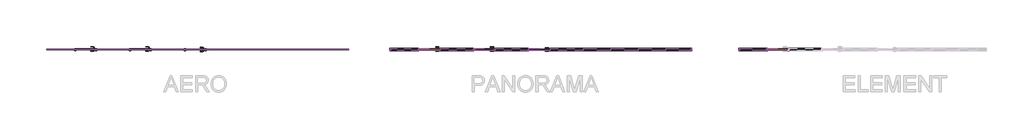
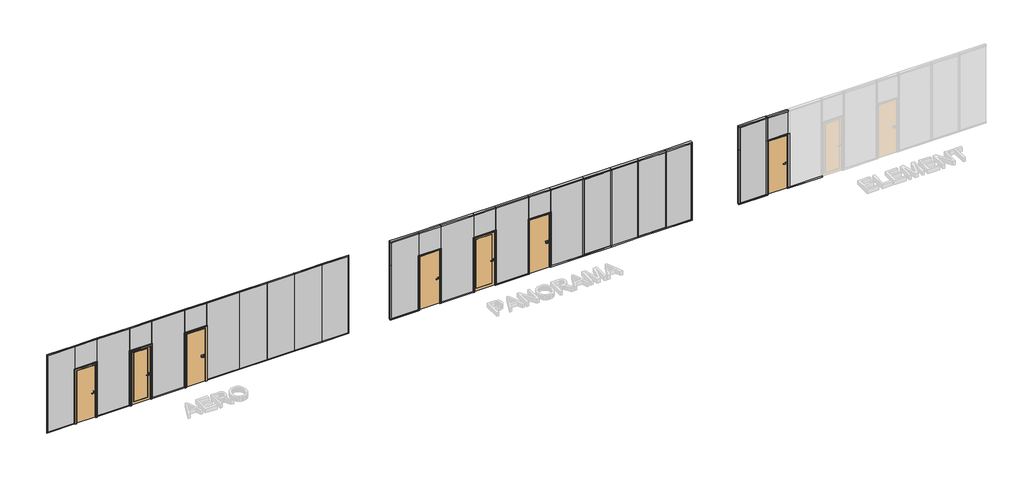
# One storey, part 1 of 2: 56 members, 24 plates, 19 doors.
"""IFC4 building model written with IfcOpenShell, lengths in millimetres."""

from ifc_helpers import new_model, si_unit, origin, place, context, project, spatial, transform, mapped, element, save
from components import door_9093d3e3, door_a52ef8e4, door_a4a6ccb6, door_728d9884, door_7f16d04f, door_5600eba2, door_8a317082, door_dc1365b6, door_572b5066, door_cc030a53, door_f3fbb11f, door_bf8c5602, door_1990c3bd, door_937f1649, door_05e06224, member_5451a1f9, member_3708038d, member_677e4dd9, member_2dd3d144, member_7cbca1cd, member_b8b3bd2f, member_cbec5030, member_06365ca1, member_5adf5f2c, member_b6bbf1a9, member_4acde7b6, member_13a5b57a, member_4891f22e, member_4cfa1914, member_e80122f3, member_e4ff52b1, member_dbd02eec, member_f7df0378, member_b819a4e9, member_84f8328c, member_916f06cf, member_73dc555b, member_ca8d964d, member_b27ab08c, member_78357b04, member_af766121, member_5ad3e071, member_f3a24926, member_3ccf52a2, member_207785f2, member_3b857dee, member_aa4ee4c7, member_44fbd9ab, member_fadf13b5, member_84486876, member_84587a3a, member_560038c9, plate_595f0704, plate_f79da63e, plate_25dafe12, plate_42d85a05, plate_0b104050, plate_0a3912a2, plate_e60d4f31, plate_bc4f32f3, plate_67983703, plate_4f8e870f, plate_bc139ad8, plate_1dc84ecd

model = new_model("IFC4")

# Units and contexts
model_context = context("Model", 3, world=origin())
ifc_project = project(units=[si_unit("LENGTHUNIT", "METRE", prefix="MILLI")], contexts=[model_context])

# Site, building, storey
site = spatial("IfcSite", under=ifc_project)
building = spatial("IfcBuilding", under=site)
storey = spatial("IfcBuildingStorey", under=building, Name="Půdorys 1.NP", Elevation=0.0)

# Doors
placement = place(None, origin())
door_shape = door_9093d3e3(model_context)
element("IfcDoor", 1, ObjectType="VERTI - kování TUPAI : ELIPTICA", at=placement, inside=storey, context=model_context, shape_type="MappedRepresentation", body=[
    mapped(door_shape, transform((-13481.2754366, 4051.6285423, 1000.0), x_axis=(1.0, 0.0, 0.0), y_axis=(0.0, 0.0, -1.0), z_axis=(0.0, 1.0, 0.0))),
])
door_2_shape = door_a52ef8e4(model_context)
element("IfcDoor", 2, ObjectType="VERTI - kování TUPAI : ELIPTICA", at=placement, inside=storey, context=model_context, shape_type="MappedRepresentation", body=[
    mapped(door_2_shape, transform((-13481.2754366, 4043.6285423, 1000.0), x_axis=(1.0, 0.0, 0.0), y_axis=(0.0, 0.0, 1.0), z_axis=(0.0, -1.0, 0.0))),
])
door_3_shape = door_a4a6ccb6(model_context)
element("IfcDoor", 3, ObjectType="VERTI - kování M&T : KVADRA", at=placement, inside=storey, context=model_context, shape_type="MappedRepresentation", body=[
    mapped(door_3_shape, transform((-936.2754366, 4051.6285423, 1000.0), x_axis=(1.0, 0.0, 0.0), y_axis=(0.0, 0.0, -1.0), z_axis=(0.0, 1.0, 0.0))),
])
door_4_shape = door_728d9884(model_context)
element("IfcDoor", 4, ObjectType="VERTI - kování M&T : KVADRA", at=placement, inside=storey, context=model_context, shape_type="MappedRepresentation", body=[
    mapped(door_4_shape, transform((-936.2754366, 4043.6285423, 1000.0), x_axis=(1.0, 0.0, 0.0), y_axis=(0.0, 0.0, 1.0), z_axis=(0.0, -1.0, 0.0))),
])
door_5_shape = door_7f16d04f(model_context)
element("IfcDoor", 5, ObjectType="VERTI - kování M&T : KVADRA", at=placement, inside=storey, context=model_context, shape_type="MappedRepresentation", body=[
    mapped(door_5_shape, transform((-4936.2754366, 4083.6285423, 1000.0), x_axis=(1.0, 0.0, 0.0), y_axis=(0.0, 0.0, -1.0), z_axis=(0.0, 1.0, 0.0))),
])
element("IfcDoor", 6, ObjectType="VERTI - kování M&T : KVADRA", at=placement, inside=storey, context=model_context, shape_type="MappedRepresentation", body=[
    mapped(door_5_shape, transform((-2936.2754366, 4083.6285423, 1000.0), x_axis=(1.0, 0.0, 0.0), y_axis=(0.0, 0.0, -1.0), z_axis=(0.0, 1.0, 0.0))),
])
door_6_shape = door_5600eba2(model_context)
element("IfcDoor", 7, ObjectType="VERTI - kování TUPAI : ELIPTICA", at=placement, inside=storey, context=model_context, shape_type="MappedRepresentation", body=[
    mapped(door_6_shape, transform((-17481.2754366, 4051.6285423, 1000.0), x_axis=(1.0, 0.0, 0.0), y_axis=(0.0, 0.0, 1.0), z_axis=(0.0, -1.0, 0.0))),
])
element("IfcDoor", 8, ObjectType="VERTI - kování TUPAI : ELIPTICA", at=placement, inside=storey, context=model_context, shape_type="MappedRepresentation", body=[
    mapped(door_6_shape, transform((-15481.2754366, 4051.6285423, 1000.0), x_axis=(1.0, 0.0, 0.0), y_axis=(0.0, 0.0, 1.0), z_axis=(0.0, -1.0, 0.0))),
])
door_7_shape = door_8a317082(model_context)
element("IfcDoor", 9, ObjectType="VERTI - kování TUPAI : ELIPTICA", at=placement, inside=storey, context=model_context, shape_type="MappedRepresentation", body=[
    mapped(door_7_shape, transform((-17481.2754366, 4083.6285423, 1000.0), x_axis=(1.0, 0.0, 0.0), y_axis=(0.0, 0.0, -1.0), z_axis=(0.0, 1.0, 0.0))),
])
element("IfcDoor", 10, ObjectType="VERTI - kování TUPAI : ELIPTICA", at=placement, inside=storey, context=model_context, shape_type="MappedRepresentation", body=[
    mapped(door_7_shape, transform((-15481.2754366, 4083.6285423, 1000.0), x_axis=(1.0, 0.0, 0.0), y_axis=(0.0, 0.0, -1.0), z_axis=(0.0, 1.0, 0.0))),
])
door_8_shape = door_dc1365b6(model_context)
element("IfcDoor", 11, ObjectType="VERTI - kování M&T : KVADRA", at=placement, inside=storey, context=model_context, shape_type="MappedRepresentation", body=[
    mapped(door_8_shape, transform((-4936.2754366, 4051.6285423, 1000.0), x_axis=(1.0, 0.0, 0.0), y_axis=(0.0, 0.0, 1.0), z_axis=(0.0, -1.0, 0.0))),
])
element("IfcDoor", 12, ObjectType="VERTI - kování M&T : KVADRA", at=placement, inside=storey, context=model_context, shape_type="MappedRepresentation", body=[
    mapped(door_8_shape, transform((-2936.2754366, 4051.6285423, 1000.0), x_axis=(1.0, 0.0, 0.0), y_axis=(0.0, 0.0, 1.0), z_axis=(0.0, -1.0, 0.0))),
])
door_9_shape = door_572b5066(model_context)
element("IfcDoor", 13, ObjectType="VERTI AERO - dveřní panel : AERO - dveřní panel", at=placement, inside=storey, context=model_context, shape_type="MappedRepresentation", body=[
    mapped(door_9_shape, transform((-13790.2754366, 4046.1285423, 0.0), x_axis=(1.0, 0.0, 0.0), y_axis=(0.0, 1.0, 0.0), z_axis=(0.0, 0.0, 1.0))),
])
door_10_shape = door_cc030a53(model_context)
element("IfcDoor", 14, ObjectType="VERTI AERO - dveřní panel : AERO - dveřní panel", at=placement, inside=storey, context=model_context, shape_type="MappedRepresentation", body=[
    mapped(door_10_shape, transform((-15790.2754366, 4046.1285423, 0.0), x_axis=(1.0, 0.0, 0.0), y_axis=(0.0, 1.0, 0.0), z_axis=(0.0, 0.0, 1.0))),
])
door_11_shape = door_f3fbb11f(model_context)
element("IfcDoor", 15, ObjectType="VERTI AERO - dveřní panel : AERO - dveřní panel", at=placement, inside=storey, context=model_context, shape_type="MappedRepresentation", body=[
    mapped(door_11_shape, transform((-17790.2754366, 4046.1285423, 0.0), x_axis=(1.0, 0.0, 0.0), y_axis=(0.0, 1.0, 0.0), z_axis=(0.0, 0.0, 1.0))),
])
door_12_shape = door_bf8c5602(model_context)
element("IfcDoor", 16, ObjectType="VERTI ELEMENT - dveřní panel : ELEMENT - dveřní panel", at=placement, inside=storey, context=model_context, shape_type="MappedRepresentation", body=[
    mapped(door_12_shape, transform((7412.2245634, 4046.1285423, 0.0), x_axis=(1.0, 0.0, 0.0), y_axis=(0.0, 1.0, 0.0), z_axis=(0.0, 0.0, 1.0))),
])
door_13_shape = door_1990c3bd(model_context)
element("IfcDoor", 17, ObjectType="VERTI PANORAMA - dveřní panel : PANORAMA - dveřní panel", at=placement, inside=storey, context=model_context, shape_type="MappedRepresentation", body=[
    mapped(door_13_shape, transform((-5270.2754366, 4046.1285423, 0.0), x_axis=(1.0, 0.0, 0.0), y_axis=(0.0, 1.0, 0.0), z_axis=(0.0, 0.0, 1.0))),
])
door_14_shape = door_937f1649(model_context)
element("IfcDoor", 18, ObjectType="VERTI PANORAMA - dveřní panel : PANORAMA - dveřní panel", at=placement, inside=storey, context=model_context, shape_type="MappedRepresentation", body=[
    mapped(door_14_shape, transform((-1270.2754366, 4046.1285423, 0.0), x_axis=(1.0, 0.0, 0.0), y_axis=(0.0, 1.0, 0.0), z_axis=(0.0, 0.0, 1.0))),
])
door_15_shape = door_05e06224(model_context)
element("IfcDoor", 19, ObjectType="VERTI PANORAMA - dveřní panel : PANORAMA - dveřní panel", at=placement, inside=storey, context=model_context, shape_type="MappedRepresentation", body=[
    mapped(door_15_shape, transform((-3270.2754366, 4046.1285423, 0.0), x_axis=(1.0, 0.0, 0.0), y_axis=(0.0, 1.0, 0.0), z_axis=(0.0, 0.0, 1.0))),
])

# Members
member_shape = member_5451a1f9(model_context)
element("IfcMember", 20, ObjectType="Obdélníková příčel : VERTI PANORAMA - vertikální", at=placement, inside=storey, context=model_context, shape_type="MappedRepresentation", body=[
    mapped(member_shape, transform((4289.7245634, 4046.1285423, 3000.0), x_axis=(0.0, 0.0, 1.0), y_axis=(0.0, -1.0, 0.0), z_axis=(1.0, 0.0, 0.0))),
])
member_2_shape = member_3708038d(model_context)
element("IfcMember", 21, ObjectType="Obdélníková příčel : VERTI PANORAMA - vertikální", at=placement, inside=storey, context=model_context, shape_type="MappedRepresentation", body=[
    mapped(member_2_shape, transform((-5670.2754366, 4046.1285423, 3000.0), x_axis=(0.0, 0.0, 1.0), y_axis=(0.0, -1.0, 0.0), z_axis=(1.0, 0.0, 0.0))),
])
member_3_shape = member_677e4dd9(model_context)
element("IfcMember", 22, ObjectType="Obdélníková příčel : VERTI PANORAMA - vertikální", at=placement, inside=storey, context=model_context, shape_type="MappedRepresentation", body=[
    mapped(member_3_shape, transform((1329.7245634, 4046.1285423, 3000.0), x_axis=(0.0, 0.0, 1.0), y_axis=(0.0, -1.0, 0.0), z_axis=(1.0, 0.0, 0.0))),
])
element("IfcMember", 23, ObjectType="Obdélníková příčel : VERTI PANORAMA - vertikální", at=placement, inside=storey, context=model_context, shape_type="MappedRepresentation", body=[
    mapped(member_3_shape, transform((2329.7245634, 4046.1285423, 3000.0), x_axis=(0.0, 0.0, 1.0), y_axis=(0.0, -1.0, 0.0), z_axis=(1.0, 0.0, 0.0))),
])
element("IfcMember", 24, ObjectType="Obdélníková příčel : VERTI PANORAMA - vertikální", at=placement, inside=storey, context=model_context, shape_type="MappedRepresentation", body=[
    mapped(member_3_shape, transform((3329.7245634, 4046.1285423, 3000.0), x_axis=(0.0, 0.0, 1.0), y_axis=(0.0, -1.0, 0.0), z_axis=(1.0, 0.0, 0.0))),
])
member_4_shape = member_2dd3d144(model_context)
element("IfcMember", 25, ObjectType="Obdélníková příčel : VERTI PANORAMA - vertikální", at=placement, inside=storey, context=model_context, shape_type="MappedRepresentation", body=[
    mapped(member_4_shape, transform((329.7245634, 4046.1285423, 0.0), x_axis=(0.0, 0.0, -1.0), y_axis=(0.0, -1.0, 0.0), z_axis=(-1.0, 0.0, 0.0))),
])
element("IfcMember", 26, ObjectType="Obdélníková příčel : VERTI PANORAMA - vertikální", at=placement, inside=storey, context=model_context, shape_type="MappedRepresentation", body=[
    mapped(member_4_shape, transform((1329.7245634, 4046.1285423, 0.0), x_axis=(0.0, 0.0, -1.0), y_axis=(0.0, -1.0, 0.0), z_axis=(-1.0, 0.0, 0.0))),
])
element("IfcMember", 27, ObjectType="Obdélníková příčel : VERTI PANORAMA - vertikální", at=placement, inside=storey, context=model_context, shape_type="MappedRepresentation", body=[
    mapped(member_4_shape, transform((2329.7245634, 4046.1285423, 0.0), x_axis=(0.0, 0.0, -1.0), y_axis=(0.0, -1.0, 0.0), z_axis=(-1.0, 0.0, 0.0))),
])
member_5_shape = member_7cbca1cd(model_context)
element("IfcMember", 28, ObjectType="Obdélníková příčel : VERTI PANORAMA - vertikální", at=placement, inside=storey, context=model_context, shape_type="MappedRepresentation", body=[
    mapped(member_5_shape, transform((3329.7245634, 4046.1285423, 0.0), x_axis=(0.0, 0.0, -1.0), y_axis=(0.0, -1.0, 0.0), z_axis=(-1.0, 0.0, 0.0))),
])
member_6_shape = member_b8b3bd2f(model_context)
element("IfcMember", 29, ObjectType="Obdélníková příčel : VERTI PANORAMA - vertikální", at=placement, inside=storey, context=model_context, shape_type="MappedRepresentation", body=[
    mapped(member_6_shape, transform((-6710.2754366, 4046.1285423, 0.0), x_axis=(0.0, 0.0, -1.0), y_axis=(0.0, -1.0, 0.0), z_axis=(-1.0, 0.0, 0.0))),
])
member_7_shape = member_cbec5030(model_context)
element("IfcMember", 30, ObjectType="Obdélníková příčel : VERTI ELEMENT - vertikální", at=placement, inside=storey, context=model_context, shape_type="MappedRepresentation", body=[
    mapped(member_7_shape, transform((5989.7245634, 4046.1285423, 0.0), x_axis=(0.0, 0.0, -1.0), y_axis=(0.0, -1.0, 0.0), z_axis=(-1.0, 0.0, 0.0))),
])
member_8_shape = member_06365ca1(model_context)
element("IfcMember", 31, ObjectType="Obdélníková příčel : VERTI ELEMENT - vertikální", at=placement, inside=storey, context=model_context, shape_type="MappedRepresentation", body=[
    mapped(member_8_shape, transform((7789.7245634, 4046.1285423, 0.0), x_axis=(0.0, 0.0, -1.0), y_axis=(0.0, -1.0, 0.0), z_axis=(-1.0, 0.0, 0.0))),
])
member_9_shape = member_5adf5f2c(model_context)
element("IfcMember", 32, ObjectType="Obdélníková příčel : VERTI ELEMENT - vertikální", at=placement, inside=storey, context=model_context, shape_type="MappedRepresentation", body=[
    mapped(member_9_shape, transform((7012.2245634, 4046.1285423, 45.0), x_axis=(1.0, 0.0, 0.0), y_axis=(0.0, -1.0, 0.0), z_axis=(0.0, 0.0, -1.0))),
])
element("IfcMember", 33, ObjectType="Obdélníková příčel : VERTI ELEMENT - vertikální", at=placement, inside=storey, context=model_context, shape_type="MappedRepresentation", body=[
    mapped(member_9_shape, transform((7812.2245634, 4046.1285423, 45.0), x_axis=(1.0, 0.0, 0.0), y_axis=(0.0, -1.0, 0.0), z_axis=(0.0, 0.0, -1.0))),
])
member_10_shape = member_b6bbf1a9(model_context)
element("IfcMember", 34, ObjectType="Obdélníková příčel : VERTI ELEMENT - horizontální", at=placement, inside=storey, context=model_context, shape_type="MappedRepresentation", body=[
    mapped(member_10_shape, transform((7789.7245634, 4046.1285423, 2100.0), x_axis=(0.0, 0.0, 1.0), y_axis=(0.0, -1.0, 0.0), z_axis=(1.0, 0.0, 0.0))),
])
member_11_shape = member_4acde7b6(model_context)
element("IfcMember", 35, ObjectType="Obdélníková příčel : VERTI ELEMENT - vertikální", at=placement, inside=storey, context=model_context, shape_type="MappedRepresentation", body=[
    mapped(member_11_shape, transform((5989.7245634, 4046.1285423, 2955.0), x_axis=(-1.0, 0.0, 0.0), y_axis=(0.0, -1.0, 0.0), z_axis=(0.0, 0.0, 1.0))),
])
member_12_shape = member_13a5b57a(model_context)
element("IfcMember", 36, ObjectType="Obdélníková příčel : VERTI ELEMENT - vertikální", at=placement, inside=storey, context=model_context, shape_type="MappedRepresentation", body=[
    mapped(member_12_shape, transform((5989.7245634, 4046.1285423, 2100.0), x_axis=(-1.0, 0.0, 0.0), y_axis=(0.0, -1.0, 0.0), z_axis=(0.0, 0.0, 1.0))),
])
member_13_shape = member_4891f22e(model_context)
element("IfcMember", 37, ObjectType="Obdélníková příčel : VERTI ELEMENT - vertikální", at=placement, inside=storey, context=model_context, shape_type="MappedRepresentation", body=[
    mapped(member_13_shape, transform((6989.7245634, 4046.1285423, 3000.0), x_axis=(0.0, 0.0, 1.0), y_axis=(0.0, -1.0, 0.0), z_axis=(1.0, 0.0, 0.0))),
])
member_14_shape = member_4cfa1914(model_context)
element("IfcMember", 38, ObjectType="Obdélníková příčel : VERTI ELEMENT - vertikální", at=placement, inside=storey, context=model_context, shape_type="MappedRepresentation", body=[
    mapped(member_14_shape, transform((7789.7245634, 4046.1285423, 3000.0), x_axis=(0.0, 0.0, 1.0), y_axis=(0.0, -1.0, 0.0), z_axis=(1.0, 0.0, 0.0))),
])
member_15_shape = member_e80122f3(model_context)
element("IfcMember", 39, ObjectType="Obdélníková příčel : VERTI ELEMENT - vertikální", at=placement, inside=storey, context=model_context, shape_type="MappedRepresentation", body=[
    mapped(member_15_shape, transform((7012.2245634, 4046.1285423, 2100.0), x_axis=(1.0, 0.0, 0.0), y_axis=(0.0, -1.0, 0.0), z_axis=(0.0, 0.0, -1.0))),
])
member_16_shape = member_e4ff52b1(model_context)
element("IfcMember", 40, ObjectType="Obdélníková příčel : VERTI PANORAMA - vertikální", at=placement, inside=storey, context=model_context, shape_type="MappedRepresentation", body=[
    mapped(member_16_shape, transform((4289.7245634, 4046.1285423, 40.0), x_axis=(1.0, 0.0, 0.0), y_axis=(0.0, -1.0, 0.0), z_axis=(0.0, 0.0, -1.0))),
])
member_17_shape = member_dbd02eec(model_context)
element("IfcMember", 41, ObjectType="Obdélníková příčel : VERTI PANORAMA - vertikální", at=placement, inside=storey, context=model_context, shape_type="MappedRepresentation", body=[
    mapped(member_17_shape, transform((-6710.2754366, 4046.1285423, 2960.0), x_axis=(-1.0, 0.0, 0.0), y_axis=(0.0, -1.0, 0.0), z_axis=(0.0, 0.0, 1.0))),
])
member_18_shape = member_f7df0378(model_context)
element("IfcMember", 42, ObjectType="Obdélníková příčel : VERTI PANORAMA - vertikální", at=placement, inside=storey, context=model_context, shape_type="MappedRepresentation", body=[
    mapped(member_18_shape, transform((4289.7245634, 4046.1285423, 2100.0), x_axis=(1.0, 0.0, 0.0), y_axis=(0.0, -1.0, 0.0), z_axis=(0.0, 0.0, -1.0))),
])
member_19_shape = member_b819a4e9(model_context)
element("IfcMember", 43, ObjectType="Obdélníková příčel : VERTI PANORAMA - vertikální", at=placement, inside=storey, context=model_context, shape_type="MappedRepresentation", body=[
    mapped(member_19_shape, transform((-6710.2754366, 4046.1285423, 2100.0), x_axis=(-1.0, 0.0, 0.0), y_axis=(0.0, -1.0, 0.0), z_axis=(0.0, 0.0, 1.0))),
])
member_20_shape = member_84f8328c(model_context)
element("IfcMember", 44, ObjectType="Obdélníková příčel : VERTI PANORAMA - vertikální", at=placement, inside=storey, context=model_context, shape_type="MappedRepresentation", body=[
    mapped(member_20_shape, transform((-4870.2754366, 4046.1285423, 3000.0), x_axis=(0.0, 0.0, 1.0), y_axis=(0.0, -1.0, 0.0), z_axis=(1.0, 0.0, 0.0))),
])
element("IfcMember", 45, ObjectType="Obdélníková příčel : VERTI PANORAMA - vertikální", at=placement, inside=storey, context=model_context, shape_type="MappedRepresentation", body=[
    mapped(member_20_shape, transform((-2870.2754366, 4046.1285423, 3000.0), x_axis=(0.0, 0.0, 1.0), y_axis=(0.0, -1.0, 0.0), z_axis=(1.0, 0.0, 0.0))),
])
element("IfcMember", 46, ObjectType="Obdélníková příčel : VERTI PANORAMA - vertikální", at=placement, inside=storey, context=model_context, shape_type="MappedRepresentation", body=[
    mapped(member_20_shape, transform((-870.2754366, 4046.1285423, 3000.0), x_axis=(0.0, 0.0, 1.0), y_axis=(0.0, -1.0, 0.0), z_axis=(1.0, 0.0, 0.0))),
])
member_21_shape = member_916f06cf(model_context)
element("IfcMember", 47, ObjectType="Obdélníková příčel : VERTI PANORAMA - vertikální", at=placement, inside=storey, context=model_context, shape_type="MappedRepresentation", body=[
    mapped(member_21_shape, transform((-3670.2754366, 4046.1285423, 3000.0), x_axis=(0.0, 0.0, 1.0), y_axis=(0.0, -1.0, 0.0), z_axis=(1.0, 0.0, 0.0))),
])
element("IfcMember", 48, ObjectType="Obdélníková příčel : VERTI PANORAMA - vertikální", at=placement, inside=storey, context=model_context, shape_type="MappedRepresentation", body=[
    mapped(member_21_shape, transform((-1670.2754366, 4046.1285423, 3000.0), x_axis=(0.0, 0.0, 1.0), y_axis=(0.0, -1.0, 0.0), z_axis=(1.0, 0.0, 0.0))),
])
element("IfcMember", 49, ObjectType="Obdélníková příčel : VERTI PANORAMA - vertikální", at=placement, inside=storey, context=model_context, shape_type="MappedRepresentation", body=[
    mapped(member_21_shape, transform((329.7245634, 4046.1285423, 3000.0), x_axis=(0.0, 0.0, 1.0), y_axis=(0.0, -1.0, 0.0), z_axis=(1.0, 0.0, 0.0))),
])
member_22_shape = member_73dc555b(model_context)
element("IfcMember", 50, ObjectType="Obdélníková příčel : VERTI PANORAMA - vertikální", at=placement, inside=storey, context=model_context, shape_type="MappedRepresentation", body=[
    mapped(member_22_shape, transform((-870.2754366, 4046.1285423, 0.0), x_axis=(0.0, 0.0, -1.0), y_axis=(0.0, -1.0, 0.0), z_axis=(-1.0, 0.0, 0.0))),
])
element("IfcMember", 51, ObjectType="Obdélníková příčel : VERTI PANORAMA - vertikální", at=placement, inside=storey, context=model_context, shape_type="MappedRepresentation", body=[
    mapped(member_22_shape, transform((-4870.2754366, 4046.1285423, 0.0), x_axis=(0.0, 0.0, -1.0), y_axis=(0.0, -1.0, 0.0), z_axis=(-1.0, 0.0, 0.0))),
])
element("IfcMember", 52, ObjectType="Obdélníková příčel : VERTI PANORAMA - vertikální", at=placement, inside=storey, context=model_context, shape_type="MappedRepresentation", body=[
    mapped(member_22_shape, transform((-2870.2754366, 4046.1285423, 0.0), x_axis=(0.0, 0.0, -1.0), y_axis=(0.0, -1.0, 0.0), z_axis=(-1.0, 0.0, 0.0))),
])
member_23_shape = member_ca8d964d(model_context)
element("IfcMember", 53, ObjectType="Obdélníková příčel : VERTI AERO", at=placement, inside=storey, context=model_context, shape_type="MappedRepresentation", body=[
    mapped(member_23_shape, transform((-16190.2754366, 4046.1285423, 3000.0), x_axis=(0.0, 0.0, 1.0), y_axis=(0.0, -1.0, 0.0), z_axis=(1.0, 0.0, 0.0))),
])
element("IfcMember", 54, ObjectType="Obdélníková příčel : VERTI AERO", at=placement, inside=storey, context=model_context, shape_type="MappedRepresentation", body=[
    mapped(member_23_shape, transform((-14190.2754366, 4046.1285423, 3000.0), x_axis=(0.0, 0.0, 1.0), y_axis=(0.0, -1.0, 0.0), z_axis=(1.0, 0.0, 0.0))),
])
element("IfcMember", 55, ObjectType="Obdélníková příčel : VERTI AERO", at=placement, inside=storey, context=model_context, shape_type="MappedRepresentation", body=[
    mapped(member_23_shape, transform((-12190.2754366, 4046.1285423, 3000.0), x_axis=(0.0, 0.0, 1.0), y_axis=(0.0, -1.0, 0.0), z_axis=(1.0, 0.0, 0.0))),
])
member_24_shape = member_b27ab08c(model_context)
element("IfcMember", 56, ObjectType="Obdélníková příčel : VERTI AERO", at=placement, inside=storey, context=model_context, shape_type="MappedRepresentation", body=[
    mapped(member_24_shape, transform((-19210.2754366, 4046.1285423, 2975.0), x_axis=(-1.0, 0.0, 0.0), y_axis=(0.0, -1.0, 0.0), z_axis=(0.0, 0.0, 1.0))),
])
member_25_shape = member_78357b04(model_context)
element("IfcMember", 57, ObjectType="Obdélníková příčel : VERTI AERO", at=placement, inside=storey, context=model_context, shape_type="MappedRepresentation", body=[
    mapped(member_25_shape, transform((-8210.2754366, 4046.1285423, 2100.0), x_axis=(1.0, 0.0, 0.0), y_axis=(0.0, -1.0, 0.0), z_axis=(0.0, 0.0, -1.0))),
])
member_26_shape = member_af766121(model_context)
element("IfcMember", 58, ObjectType="Obdélníková příčel : VERTI AERO", at=placement, inside=storey, context=model_context, shape_type="MappedRepresentation", body=[
    mapped(member_26_shape, transform((-8210.2754366, 4046.1285423, 3000.0), x_axis=(0.0, 0.0, 1.0), y_axis=(0.0, -1.0, 0.0), z_axis=(1.0, 0.0, 0.0))),
])
member_27_shape = member_5ad3e071(model_context)
element("IfcMember", 59, ObjectType="Obdélníková příčel : VERTI AERO", at=placement, inside=storey, context=model_context, shape_type="MappedRepresentation", body=[
    mapped(member_27_shape, transform((-11185.2754366, 4046.1285423, 3000.0), x_axis=(0.0, 0.0, 1.0), y_axis=(0.0, -1.0, 0.0), z_axis=(1.0, 0.0, 0.0))),
])
element("IfcMember", 60, ObjectType="Obdélníková příčel : VERTI AERO", at=placement, inside=storey, context=model_context, shape_type="MappedRepresentation", body=[
    mapped(member_27_shape, transform((-9185.2754366, 4046.1285423, 3000.0), x_axis=(0.0, 0.0, 1.0), y_axis=(0.0, -1.0, 0.0), z_axis=(1.0, 0.0, 0.0))),
])
member_28_shape = member_f3a24926(model_context)
element("IfcMember", 61, ObjectType="Obdélníková příčel : VERTI AERO", at=placement, inside=storey, context=model_context, shape_type="MappedRepresentation", body=[
    mapped(member_28_shape, transform((-10190.2754366, 4046.1285423, 3000.0), x_axis=(0.0, 0.0, 1.0), y_axis=(0.0, -1.0, 0.0), z_axis=(1.0, 0.0, 0.0))),
])
member_29_shape = member_3ccf52a2(model_context)
element("IfcMember", 62, ObjectType="Obdélníková příčel : VERTI AERO", at=placement, inside=storey, context=model_context, shape_type="MappedRepresentation", body=[
    mapped(member_29_shape, transform((-12190.2754366, 4046.1285423, 0.0), x_axis=(0.0, 0.0, -1.0), y_axis=(0.0, -1.0, 0.0), z_axis=(-1.0, 0.0, 0.0))),
])
element("IfcMember", 63, ObjectType="Obdélníková příčel : VERTI AERO", at=placement, inside=storey, context=model_context, shape_type="MappedRepresentation", body=[
    mapped(member_29_shape, transform((-10190.2754366, 4046.1285423, 0.0), x_axis=(0.0, 0.0, -1.0), y_axis=(0.0, -1.0, 0.0), z_axis=(-1.0, 0.0, 0.0))),
])
member_30_shape = member_207785f2(model_context)
element("IfcMember", 64, ObjectType="Obdélníková příčel : VERTI AERO", at=placement, inside=storey, context=model_context, shape_type="MappedRepresentation", body=[
    mapped(member_30_shape, transform((-11185.2754366, 4046.1285423, 0.0), x_axis=(0.0, 0.0, -1.0), y_axis=(0.0, -1.0, 0.0), z_axis=(-1.0, 0.0, 0.0))),
])
member_31_shape = member_3b857dee(model_context)
element("IfcMember", 65, ObjectType="Obdélníková příčel : VERTI AERO", at=placement, inside=storey, context=model_context, shape_type="MappedRepresentation", body=[
    mapped(member_31_shape, transform((-9185.2754366, 4046.1285423, 0.0), x_axis=(0.0, 0.0, -1.0), y_axis=(0.0, -1.0, 0.0), z_axis=(-1.0, 0.0, 0.0))),
])
member_32_shape = member_aa4ee4c7(model_context)
element("IfcMember", 66, ObjectType="Obdélníková příčel : VERTI AERO", at=placement, inside=storey, context=model_context, shape_type="MappedRepresentation", body=[
    mapped(member_32_shape, transform((-8210.2754366, 4046.1285423, 25.0), x_axis=(1.0, 0.0, 0.0), y_axis=(0.0, -1.0, 0.0), z_axis=(0.0, 0.0, -1.0))),
])
member_33_shape = member_44fbd9ab(model_context)
element("IfcMember", 67, ObjectType="Obdélníková příčel : VERTI AERO", at=placement, inside=storey, context=model_context, shape_type="MappedRepresentation", body=[
    mapped(member_33_shape, transform((-19210.2754366, 4046.1285423, 2100.0), x_axis=(-1.0, 0.0, 0.0), y_axis=(0.0, -1.0, 0.0), z_axis=(0.0, 0.0, 1.0))),
])
member_34_shape = member_fadf13b5(model_context)
element("IfcMember", 68, ObjectType="Obdélníková příčel : VERTI AERO", at=placement, inside=storey, context=model_context, shape_type="MappedRepresentation", body=[
    mapped(member_34_shape, transform((-17390.2754366, 4046.1285423, 0.0), x_axis=(0.0, 0.0, -1.0), y_axis=(0.0, -1.0, 0.0), z_axis=(-1.0, 0.0, 0.0))),
])
element("IfcMember", 69, ObjectType="Obdélníková příčel : VERTI AERO", at=placement, inside=storey, context=model_context, shape_type="MappedRepresentation", body=[
    mapped(member_34_shape, transform((-15390.2754366, 4046.1285423, 0.0), x_axis=(0.0, 0.0, -1.0), y_axis=(0.0, -1.0, 0.0), z_axis=(-1.0, 0.0, 0.0))),
])
member_35_shape = member_84486876(model_context)
element("IfcMember", 70, ObjectType="Obdélníková příčel : VERTI AERO", at=placement, inside=storey, context=model_context, shape_type="MappedRepresentation", body=[
    mapped(member_35_shape, transform((-17390.2754366, 4046.1285423, 3000.0), x_axis=(0.0, 0.0, 1.0), y_axis=(0.0, -1.0, 0.0), z_axis=(1.0, 0.0, 0.0))),
])
element("IfcMember", 71, ObjectType="Obdélníková příčel : VERTI AERO", at=placement, inside=storey, context=model_context, shape_type="MappedRepresentation", body=[
    mapped(member_35_shape, transform((-15390.2754366, 4046.1285423, 3000.0), x_axis=(0.0, 0.0, 1.0), y_axis=(0.0, -1.0, 0.0), z_axis=(1.0, 0.0, 0.0))),
])
element("IfcMember", 72, ObjectType="Obdélníková příčel : VERTI AERO", at=placement, inside=storey, context=model_context, shape_type="MappedRepresentation", body=[
    mapped(member_35_shape, transform((-13390.2754366, 4046.1285423, 3000.0), x_axis=(0.0, 0.0, 1.0), y_axis=(0.0, -1.0, 0.0), z_axis=(1.0, 0.0, 0.0))),
])
element("IfcMember", 73, ObjectType="Obdélníková příčel : VERTI AERO", at=placement, inside=storey, context=model_context, shape_type="MappedRepresentation", body=[
    mapped(member_34_shape, transform((-13390.2754366, 4046.1285423, 0.0), x_axis=(0.0, 0.0, -1.0), y_axis=(0.0, -1.0, 0.0), z_axis=(-1.0, 0.0, 0.0))),
])
member_36_shape = member_84587a3a(model_context)
element("IfcMember", 74, ObjectType="Obdélníková příčel : VERTI AERO", at=placement, inside=storey, context=model_context, shape_type="MappedRepresentation", body=[
    mapped(member_36_shape, transform((-18190.2754366, 4046.1285423, 3000.0), x_axis=(0.0, 0.0, 1.0), y_axis=(0.0, -1.0, 0.0), z_axis=(1.0, 0.0, 0.0))),
])
member_37_shape = member_560038c9(model_context)
element("IfcMember", 75, ObjectType="Obdélníková příčel : VERTI AERO", at=placement, inside=storey, context=model_context, shape_type="MappedRepresentation", body=[
    mapped(member_37_shape, transform((-19210.2754366, 4046.1285423, 0.0), x_axis=(0.0, 0.0, -1.0), y_axis=(0.0, -1.0, 0.0), z_axis=(-1.0, 0.0, 0.0))),
])

# Plates
plate_shape = plate_595f0704(model_context)
element("IfcPlate", 76, ObjectType="VERTI ELEMENT - prosklená výplň : Prosklená výplň", at=placement, inside=storey, context=model_context, shape_type="MappedRepresentation", body=[
    mapped(plate_shape, transform((6512.2245634, 4046.1285423, 45.0), x_axis=(1.0, 0.0, 0.0), y_axis=(0.0, 1.0, 0.0), z_axis=(0.0, 0.0, 1.0))),
])
plate_2_shape = plate_f79da63e(model_context)
element("IfcPlate", 77, ObjectType="VERTI ELEMENT - prosklená výplň : Prosklená výplň", at=placement, inside=storey, context=model_context, shape_type="MappedRepresentation", body=[
    mapped(plate_2_shape, transform((7412.2245634, 4046.1285423, 2112.5), x_axis=(1.0, 0.0, 0.0), y_axis=(0.0, 1.0, 0.0), z_axis=(0.0, 0.0, 1.0))),
])
plate_3_shape = plate_25dafe12(model_context)
element("IfcPlate", 78, ObjectType="VERTI PANORAMA - prosklená výplň : Prosklená výplň", at=placement, inside=storey, context=model_context, shape_type="MappedRepresentation", body=[
    mapped(plate_3_shape, transform((-6170.2754366, 4046.1285423, 40.0), x_axis=(1.0, 0.0, 0.0), y_axis=(0.0, 1.0, 0.0), z_axis=(0.0, 0.0, 1.0))),
])
element("IfcPlate", 79, ObjectType="VERTI PANORAMA - prosklená výplň : Prosklená výplň", at=placement, inside=storey, context=model_context, shape_type="MappedRepresentation", body=[
    mapped(plate_3_shape, transform((1829.7245634, 4046.1285423, 40.0), x_axis=(1.0, 0.0, 0.0), y_axis=(0.0, 1.0, 0.0), z_axis=(0.0, 0.0, 1.0))),
])
plate_4_shape = plate_42d85a05(model_context)
element("IfcPlate", 80, ObjectType="VERTI PANORAMA - plná výpň : Dýhovaný povrch", at=placement, inside=storey, context=model_context, shape_type="MappedRepresentation", body=[
    mapped(plate_4_shape, transform((829.7245634, 4046.1285423, 40.0), x_axis=(1.0, 0.0, 0.0), y_axis=(0.0, 1.0, 0.0), z_axis=(0.0, 0.0, 1.0))),
])
element("IfcPlate", 81, ObjectType="VERTI PANORAMA - plná výpň : Laminovaný povrch", at=placement, inside=storey, context=model_context, shape_type="MappedRepresentation", body=[
    mapped(plate_4_shape, transform((2829.7245634, 4046.1285423, 40.0), x_axis=(1.0, 0.0, 0.0), y_axis=(0.0, 1.0, 0.0), z_axis=(0.0, 0.0, 1.0))),
])
plate_5_shape = plate_0b104050(model_context)
element("IfcPlate", 82, ObjectType="VERTI PANORAMA - prosklená výplň : Prosklená výplň", at=placement, inside=storey, context=model_context, shape_type="MappedRepresentation", body=[
    mapped(plate_5_shape, transform((3789.7245634, 4046.1285423, 40.0), x_axis=(1.0, 0.0, 0.0), y_axis=(0.0, 1.0, 0.0), z_axis=(0.0, 0.0, 1.0))),
])
plate_6_shape = plate_0a3912a2(model_context)
element("IfcPlate", 83, ObjectType="VERTI PANORAMA - prosklená výplň : Prosklená výplň", at=placement, inside=storey, context=model_context, shape_type="MappedRepresentation", body=[
    mapped(plate_6_shape, transform((-4270.2754366, 4046.1285423, 40.0), x_axis=(1.0, 0.0, 0.0), y_axis=(0.0, 1.0, 0.0), z_axis=(0.0, 0.0, 1.0))),
])
element("IfcPlate", 84, ObjectType="VERTI PANORAMA - prosklená výplň : Prosklená výplň", at=placement, inside=storey, context=model_context, shape_type="MappedRepresentation", body=[
    mapped(plate_6_shape, transform((-2270.2754366, 4046.1285423, 40.0), x_axis=(1.0, 0.0, 0.0), y_axis=(0.0, 1.0, 0.0), z_axis=(0.0, 0.0, 1.0))),
])
element("IfcPlate", 85, ObjectType="VERTI PANORAMA - prosklená výplň : Prosklená výplň", at=placement, inside=storey, context=model_context, shape_type="MappedRepresentation", body=[
    mapped(plate_6_shape, transform((-270.2754366, 4046.1285423, 40.0), x_axis=(1.0, 0.0, 0.0), y_axis=(0.0, 1.0, 0.0), z_axis=(0.0, 0.0, 1.0))),
])
plate_7_shape = plate_e60d4f31(model_context)
element("IfcPlate", 86, ObjectType="VERTI PANORAMA - prosklená výplň : Prosklená výplň", at=placement, inside=storey, context=model_context, shape_type="MappedRepresentation", body=[
    mapped(plate_7_shape, transform((-5270.2754366, 4046.1285423, 2100.0), x_axis=(1.0, 0.0, 0.0), y_axis=(0.0, 1.0, 0.0), z_axis=(0.0, 0.0, 1.0))),
])
element("IfcPlate", 87, ObjectType="VERTI PANORAMA - prosklená výplň : Prosklená výplň", at=placement, inside=storey, context=model_context, shape_type="MappedRepresentation", body=[
    mapped(plate_7_shape, transform((-3270.2754366, 4046.1285423, 2100.0), x_axis=(1.0, 0.0, 0.0), y_axis=(0.0, 1.0, 0.0), z_axis=(0.0, 0.0, 1.0))),
])
element("IfcPlate", 88, ObjectType="VERTI PANORAMA - prosklená výplň : Prosklená výplň", at=placement, inside=storey, context=model_context, shape_type="MappedRepresentation", body=[
    mapped(plate_7_shape, transform((-1270.2754366, 4046.1285423, 2100.0), x_axis=(1.0, 0.0, 0.0), y_axis=(0.0, 1.0, 0.0), z_axis=(0.0, 0.0, 1.0))),
])
plate_8_shape = plate_bc4f32f3(model_context)
element("IfcPlate", 89, ObjectType="VERTI AERO - prosklená výplň : Prosklená výplň", at=placement, inside=storey, context=model_context, shape_type="MappedRepresentation", body=[
    mapped(plate_8_shape, transform((-16790.2754366, 4046.1285423, 25.0), x_axis=(1.0, 0.0, 0.0), y_axis=(0.0, 1.0, 0.0), z_axis=(0.0, 0.0, 1.0))),
])
element("IfcPlate", 90, ObjectType="VERTI AERO - prosklená výplň : Prosklená výplň", at=placement, inside=storey, context=model_context, shape_type="MappedRepresentation", body=[
    mapped(plate_8_shape, transform((-14790.2754366, 4046.1285423, 25.0), x_axis=(1.0, 0.0, 0.0), y_axis=(0.0, 1.0, 0.0), z_axis=(0.0, 0.0, 1.0))),
])
element("IfcPlate", 91, ObjectType="VERTI AERO - prosklená výplň : Prosklená výplň", at=placement, inside=storey, context=model_context, shape_type="MappedRepresentation", body=[
    mapped(plate_8_shape, transform((-12790.2754366, 4046.1285423, 25.0), x_axis=(1.0, 0.0, 0.0), y_axis=(0.0, 1.0, 0.0), z_axis=(0.0, 0.0, 1.0))),
])
plate_9_shape = plate_67983703(model_context)
element("IfcPlate", 92, ObjectType="VERTI AERO - prosklená výplň : Prosklená výplň", at=placement, inside=storey, context=model_context, shape_type="MappedRepresentation", body=[
    mapped(plate_9_shape, transform((-11687.7754366, 4046.1285423, 25.0), x_axis=(1.0, 0.0, 0.0), y_axis=(0.0, 1.0, 0.0), z_axis=(0.0, 0.0, 1.0))),
])
element("IfcPlate", 93, ObjectType="VERTI AERO - prosklená výplň : Prosklená výplň", at=placement, inside=storey, context=model_context, shape_type="MappedRepresentation", body=[
    mapped(plate_9_shape, transform((-9687.7754366, 4046.1285423, 25.0), x_axis=(1.0, 0.0, 0.0), y_axis=(0.0, 1.0, 0.0), z_axis=(0.0, 0.0, 1.0))),
])
plate_10_shape = plate_4f8e870f(model_context)
element("IfcPlate", 94, ObjectType="VERTI AERO - prosklená výplň : Prosklená výplň", at=placement, inside=storey, context=model_context, shape_type="MappedRepresentation", body=[
    mapped(plate_10_shape, transform((-18687.7754366, 4046.1285423, 25.0), x_axis=(1.0, 0.0, 0.0), y_axis=(0.0, 1.0, 0.0), z_axis=(0.0, 0.0, 1.0))),
])
element("IfcPlate", 95, ObjectType="VERTI AERO - prosklená výplň : Prosklená výplň", at=placement, inside=storey, context=model_context, shape_type="MappedRepresentation", body=[
    mapped(plate_10_shape, transform((-10687.7754366, 4046.1285423, 25.0), x_axis=(1.0, 0.0, 0.0), y_axis=(0.0, 1.0, 0.0), z_axis=(0.0, 0.0, 1.0))),
])
plate_11_shape = plate_bc139ad8(model_context)
element("IfcPlate", 96, ObjectType="VERTI AERO - prosklená výplň : Prosklená výplň", at=placement, inside=storey, context=model_context, shape_type="MappedRepresentation", body=[
    mapped(plate_11_shape, transform((-8710.2754366, 4046.1285423, 25.0), x_axis=(1.0, 0.0, 0.0), y_axis=(0.0, 1.0, 0.0), z_axis=(0.0, 0.0, 1.0))),
])
plate_12_shape = plate_1dc84ecd(model_context)
element("IfcPlate", 97, ObjectType="VERTI AERO - prosklená výplň : Prosklená výplň", at=placement, inside=storey, context=model_context, shape_type="MappedRepresentation", body=[
    mapped(plate_12_shape, transform((-17790.2754366, 4046.1285423, 2100.0), x_axis=(1.0, 0.0, 0.0), y_axis=(0.0, 1.0, 0.0), z_axis=(0.0, 0.0, 1.0))),
])
element("IfcPlate", 98, ObjectType="VERTI AERO - prosklená výplň : Prosklená výplň", at=placement, inside=storey, context=model_context, shape_type="MappedRepresentation", body=[
    mapped(plate_12_shape, transform((-15790.2754366, 4046.1285423, 2100.0), x_axis=(1.0, 0.0, 0.0), y_axis=(0.0, 1.0, 0.0), z_axis=(0.0, 0.0, 1.0))),
])
element("IfcPlate", 99, ObjectType="VERTI AERO - prosklená výplň : Prosklená výplň", at=placement, inside=storey, context=model_context, shape_type="MappedRepresentation", body=[
    mapped(plate_12_shape, transform((-13790.2754366, 4046.1285423, 2100.0), x_axis=(1.0, 0.0, 0.0), y_axis=(0.0, 1.0, 0.0), z_axis=(0.0, 0.0, 1.0))),
])

save(model, "model.ifc")
